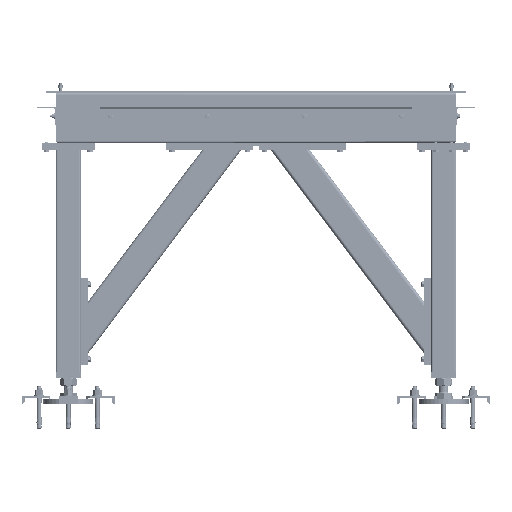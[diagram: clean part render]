
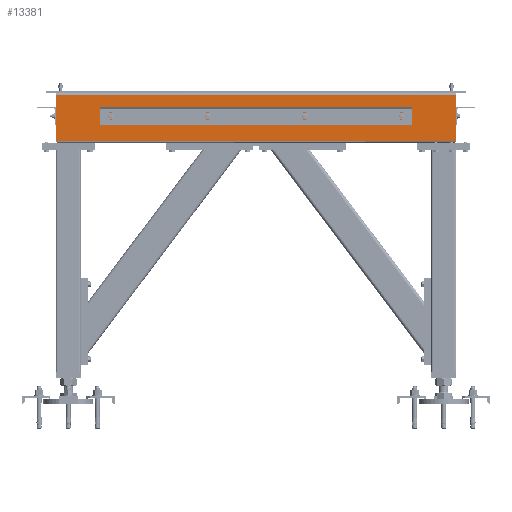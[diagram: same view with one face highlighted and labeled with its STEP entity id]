
A CAD part, left-side view. The second image highlights one B-rep face of the part: STEP entity #13381.
In plain terms, the highlighted planar face has unit normal (-1, 0, 0) as drawn and (1, 0, 0) by its records, which use the part's own axes.
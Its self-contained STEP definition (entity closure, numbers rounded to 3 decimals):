
#600 = CIRCLE ( 'NONE', #39207, 6. ) ;
#1201 = VERTEX_POINT ( 'NONE', #17446 ) ;
#1239 = CARTESIAN_POINT ( 'NONE',  ( -23174.306, 28260., 74. ) ) ;
#1279 = EDGE_CURVE ( 'NONE', #7684, #37409, #6686, .T. ) ;
#1428 = DIRECTION ( 'NONE',  ( 0., -1., 0. ) ) ;
#2320 = CARTESIAN_POINT ( 'NONE',  ( -23174.306, 27195., -11.5 ) ) ;
#3098 = EDGE_CURVE ( 'NONE', #37409, #7684, #41444, .T. ) ;
#4275 = VECTOR ( 'NONE', #22323, 1000. ) ;
#4329 = EDGE_CURVE ( 'NONE', #31400, #10495, #8405, .T. ) ;
#5056 = DIRECTION ( 'NONE',  ( 1., 0., 0. ) ) ;
#6686 = CIRCLE ( 'NONE', #39248, 6. ) ;
#7133 = DIRECTION ( 'NONE',  ( 1., 0., 0. ) ) ;
#7384 = DIRECTION ( 'NONE',  ( 0., 0., -1. ) ) ;
#7684 = VERTEX_POINT ( 'NONE', #2320 ) ;
#7861 = CARTESIAN_POINT ( 'NONE',  ( -23174.306, 27815., -5.5 ) ) ;
#8184 = ORIENTED_EDGE ( 'NONE', *, *, #33463, .F. ) ;
#8221 = DIRECTION ( 'NONE',  ( 0., 0., -1. ) ) ;
#8405 = LINE ( 'NONE', #1239, #29962 ) ;
#8548 = FACE_BOUND ( 'NONE', #28343, .T. ) ;
#9093 = ORIENTED_EDGE ( 'NONE', *, *, #11473, .F. ) ;
#9638 = DIRECTION ( 'NONE',  ( -1., 0., 0. ) ) ;
#10495 = VERTEX_POINT ( 'NONE', #30963 ) ;
#10948 = DIRECTION ( 'NONE',  ( 1., 0., 0. ) ) ;
#11473 = EDGE_CURVE ( 'NONE', #54231, #21664, #23018, .T. ) ;
#12399 = EDGE_CURVE ( 'NONE', #31400, #45098, #51072, .T. ) ;
#12551 = FACE_BOUND ( 'NONE', #29842, .T. ) ;
#13381 = ADVANCED_FACE ( 'NONE', ( #12551, #8548, #52984, #45865, #48923 ), #14143, .F. ) ;
#13583 = DIRECTION ( 'NONE',  ( 0., 0., -1. ) ) ;
#14143 = PLANE ( 'NONE',  #31952 ) ;
#14300 = CARTESIAN_POINT ( 'NONE',  ( -23174.306, 27505., 0.5 ) ) ;
#14510 = DIRECTION ( 'NONE',  ( 0., 0., 1. ) ) ;
#15337 = EDGE_LOOP ( 'NONE', ( #21700, #9093 ) ) ;
#15662 = DIRECTION ( 'NONE',  ( 1., 0., 0. ) ) ;
#16400 = LINE ( 'NONE', #48091, #4275 ) ;
#16944 = AXIS2_PLACEMENT_3D ( 'NONE', #44052, #26419, #13583 ) ;
#17066 = CARTESIAN_POINT ( 'NONE',  ( -23174.306, 27505., -11.5 ) ) ;
#17446 = CARTESIAN_POINT ( 'NONE',  ( -23174.306, 28125., -11.5 ) ) ;
#17635 = DIRECTION ( 'NONE',  ( 0., 0., -1. ) ) ;
#17683 = AXIS2_PLACEMENT_3D ( 'NONE', #32955, #7133, #20499 ) ;
#18328 = CARTESIAN_POINT ( 'NONE',  ( -23174.306, 27815., -11.5 ) ) ;
#18738 = EDGE_CURVE ( 'NONE', #45098, #24251, #16400, .T. ) ;
#20498 = CARTESIAN_POINT ( 'NONE',  ( -23174.306, 27195., 0.5 ) ) ;
#20499 = DIRECTION ( 'NONE',  ( 0., 0., -1. ) ) ;
#20661 = LINE ( 'NONE', #33991, #37529 ) ;
#21664 = VERTEX_POINT ( 'NONE', #18328 ) ;
#21700 = ORIENTED_EDGE ( 'NONE', *, *, #54344, .F. ) ;
#22083 = CARTESIAN_POINT ( 'NONE',  ( -23174.306, 28300., 74. ) ) ;
#22323 = DIRECTION ( 'NONE',  ( 0., -1., 0. ) ) ;
#23018 = CIRCLE ( 'NONE', #54162, 6. ) ;
#23918 = DIRECTION ( 'NONE',  ( 1., 0., 0. ) ) ;
#24251 = VERTEX_POINT ( 'NONE', #24265 ) ;
#24258 = AXIS2_PLACEMENT_3D ( 'NONE', #28135, #10948, #41063 ) ;
#24265 = CARTESIAN_POINT ( 'NONE',  ( -23174.306, 27020., -74. ) ) ;
#24849 = DIRECTION ( 'NONE',  ( 1., 0., 0. ) ) ;
#25621 = CIRCLE ( 'NONE', #52430, 6. ) ;
#25948 = EDGE_CURVE ( 'NONE', #54176, #1201, #32892, .T. ) ;
#26419 = DIRECTION ( 'NONE',  ( 1., 0., 0. ) ) ;
#26881 = VECTOR ( 'NONE', #8221, 1000. ) ;
#27373 = CARTESIAN_POINT ( 'NONE',  ( -23174.306, 28260., -74. ) ) ;
#27724 = ORIENTED_EDGE ( 'NONE', *, *, #41747, .F. ) ;
#28135 = CARTESIAN_POINT ( 'NONE',  ( -23174.306, 27505., -5.5 ) ) ;
#28343 = EDGE_LOOP ( 'NONE', ( #27724, #8184 ) ) ;
#28599 = ORIENTED_EDGE ( 'NONE', *, *, #55334, .F. ) ;
#28874 = CARTESIAN_POINT ( 'NONE',  ( -23174.306, 27815., -5.5 ) ) ;
#29473 = ORIENTED_EDGE ( 'NONE', *, *, #25948, .F. ) ;
#29842 = EDGE_LOOP ( 'NONE', ( #55348, #41840 ) ) ;
#29962 = VECTOR ( 'NONE', #1428, 1000. ) ;
#30373 = VERTEX_POINT ( 'NONE', #17066 ) ;
#30865 = CARTESIAN_POINT ( 'NONE',  ( -23174.306, 27195., -5.5 ) ) ;
#30963 = CARTESIAN_POINT ( 'NONE',  ( -23174.306, 27020., 74. ) ) ;
#31400 = VERTEX_POINT ( 'NONE', #22083 ) ;
#31952 = AXIS2_PLACEMENT_3D ( 'NONE', #27373, #9638, #14510 ) ;
#32570 = CARTESIAN_POINT ( 'NONE',  ( -23174.306, 28125., 0.5 ) ) ;
#32892 = CIRCLE ( 'NONE', #17683, 6. ) ;
#32955 = CARTESIAN_POINT ( 'NONE',  ( -23174.306, 28125., -5.5 ) ) ;
#33126 = EDGE_CURVE ( 'NONE', #24251, #10495, #20661, .T. ) ;
#33463 = EDGE_CURVE ( 'NONE', #45240, #30373, #40162, .T. ) ;
#33991 = CARTESIAN_POINT ( 'NONE',  ( -23174.306, 27020., -74. ) ) ;
#36727 = CARTESIAN_POINT ( 'NONE',  ( -23174.306, 27815., 0.5 ) ) ;
#37409 = VERTEX_POINT ( 'NONE', #20498 ) ;
#37529 = VECTOR ( 'NONE', #46914, 1000. ) ;
#38970 = EDGE_LOOP ( 'NONE', ( #54641, #49215, #46589, #42669 ) ) ;
#39207 = AXIS2_PLACEMENT_3D ( 'NONE', #49724, #53488, #54034 ) ;
#39248 = AXIS2_PLACEMENT_3D ( 'NONE', #30865, #5056, #17635 ) ;
#40162 = CIRCLE ( 'NONE', #24258, 6. ) ;
#40996 = DIRECTION ( 'NONE',  ( 0., 0., -1. ) ) ;
#41063 = DIRECTION ( 'NONE',  ( 0., 0., -1. ) ) ;
#41444 = CIRCLE ( 'NONE', #16944, 6. ) ;
#41747 = EDGE_CURVE ( 'NONE', #30373, #45240, #46053, .T. ) ;
#41840 = ORIENTED_EDGE ( 'NONE', *, *, #3098, .F. ) ;
#42669 = ORIENTED_EDGE ( 'NONE', *, *, #18738, .F. ) ;
#44052 = CARTESIAN_POINT ( 'NONE',  ( -23174.306, 27195., -5.5 ) ) ;
#44853 = EDGE_LOOP ( 'NONE', ( #28599, #29473 ) ) ;
#45098 = VERTEX_POINT ( 'NONE', #52314 ) ;
#45240 = VERTEX_POINT ( 'NONE', #14300 ) ;
#45673 = CARTESIAN_POINT ( 'NONE',  ( -23174.306, 27505., -5.5 ) ) ;
#45865 = FACE_BOUND ( 'NONE', #44853, .T. ) ;
#46053 = CIRCLE ( 'NONE', #52407, 6. ) ;
#46402 = CARTESIAN_POINT ( 'NONE',  ( -23174.306, 28300., -74. ) ) ;
#46589 = ORIENTED_EDGE ( 'NONE', *, *, #33126, .F. ) ;
#46914 = DIRECTION ( 'NONE',  ( 0., 0., 1. ) ) ;
#48091 = CARTESIAN_POINT ( 'NONE',  ( -23174.306, 28260., -74. ) ) ;
#48923 = FACE_OUTER_BOUND ( 'NONE', #38970, .T. ) ;
#49215 = ORIENTED_EDGE ( 'NONE', *, *, #4329, .T. ) ;
#49724 = CARTESIAN_POINT ( 'NONE',  ( -23174.306, 28125., -5.5 ) ) ;
#50764 = DIRECTION ( 'NONE',  ( 0., 0., -1. ) ) ;
#51072 = LINE ( 'NONE', #46402, #26881 ) ;
#52314 = CARTESIAN_POINT ( 'NONE',  ( -23174.306, 28300., -74. ) ) ;
#52407 = AXIS2_PLACEMENT_3D ( 'NONE', #45673, #23918, #40996 ) ;
#52430 = AXIS2_PLACEMENT_3D ( 'NONE', #7861, #24849, #50764 ) ;
#52984 = FACE_BOUND ( 'NONE', #15337, .T. ) ;
#53488 = DIRECTION ( 'NONE',  ( 1., 0., 0. ) ) ;
#54034 = DIRECTION ( 'NONE',  ( 0., 0., -1. ) ) ;
#54162 = AXIS2_PLACEMENT_3D ( 'NONE', #28874, #15662, #7384 ) ;
#54176 = VERTEX_POINT ( 'NONE', #32570 ) ;
#54231 = VERTEX_POINT ( 'NONE', #36727 ) ;
#54344 = EDGE_CURVE ( 'NONE', #21664, #54231, #25621, .T. ) ;
#54641 = ORIENTED_EDGE ( 'NONE', *, *, #12399, .F. ) ;
#55334 = EDGE_CURVE ( 'NONE', #1201, #54176, #600, .T. ) ;
#55348 = ORIENTED_EDGE ( 'NONE', *, *, #1279, .F. ) ;
